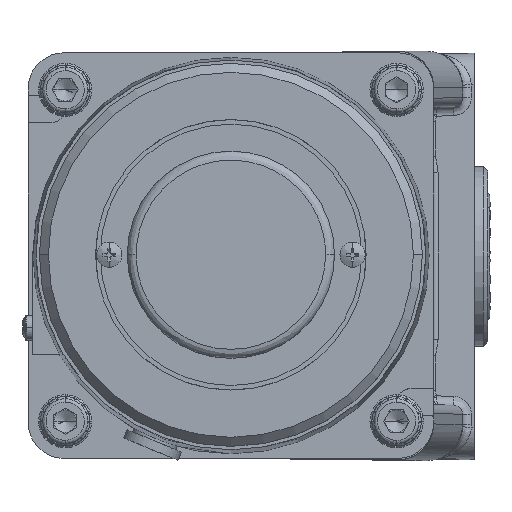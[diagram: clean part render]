
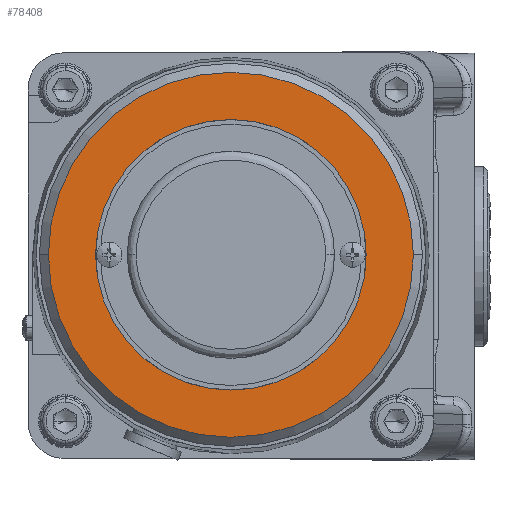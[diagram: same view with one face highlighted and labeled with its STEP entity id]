
A CAD part, top view. The second image highlights one B-rep face of the part: STEP entity #78408.
In plain terms, the highlighted planar face has unit normal (0, 0, 1) as drawn and (-1, 0, 0) by its records, which use the part's own axes.
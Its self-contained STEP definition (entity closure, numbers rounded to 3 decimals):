
#199 = ORIENTED_EDGE ( 'NONE', *, *, #34504, .F. ) ;
#936 = DIRECTION ( 'NONE',  ( 0., 0., 1. ) ) ;
#1021 = DIRECTION ( 'NONE',  ( 1., 0., 0. ) ) ;
#1222 = CARTESIAN_POINT ( 'NONE',  ( -38.671, -0.635, 153.524 ) ) ;
#2070 = EDGE_LOOP ( 'NONE', ( #46723, #27290 ) ) ;
#6634 = PLANE ( 'NONE',  #23651 ) ;
#12821 = DIRECTION ( 'NONE',  ( 1., 0., 0. ) ) ;
#13061 = CARTESIAN_POINT ( 'NONE',  ( -38.671, 29.365, 153.524 ) ) ;
#13763 = CARTESIAN_POINT ( 'NONE',  ( -38.671, -0.635, 153.524 ) ) ;
#18472 = DIRECTION ( 'NONE',  ( 0., 0., -1. ) ) ;
#18485 = DIRECTION ( 'NONE',  ( 1., 0., 0. ) ) ;
#18589 = CARTESIAN_POINT ( 'NONE',  ( -38.671, -0.635, 153.524 ) ) ;
#20187 = DIRECTION ( 'NONE',  ( 0., 0., 1. ) ) ;
#23651 = AXIS2_PLACEMENT_3D ( 'NONE', #13061, #45028, #63733 ) ;
#24375 = AXIS2_PLACEMENT_3D ( 'NONE', #13763, #58262, #20187 ) ;
#26723 = EDGE_CURVE ( 'NONE', #54906, #56415, #75490, .T. ) ;
#27187 = CIRCLE ( 'NONE', #24375, 30. ) ;
#27290 = ORIENTED_EDGE ( 'NONE', *, *, #52538, .T. ) ;
#28688 = CARTESIAN_POINT ( 'NONE',  ( -38.671, -0.635, 123.524 ) ) ;
#30057 = EDGE_LOOP ( 'NONE', ( #199, #59660 ) ) ;
#34504 = EDGE_CURVE ( 'NONE', #63122, #38156, #47770, .T. ) ;
#38156 = VERTEX_POINT ( 'NONE', #47720 ) ;
#44225 = EDGE_CURVE ( 'NONE', #38156, #63122, #80757, .T. ) ;
#45028 = DIRECTION ( 'NONE',  ( -1., 0., 0. ) ) ;
#46723 = ORIENTED_EDGE ( 'NONE', *, *, #26723, .T. ) ;
#47720 = CARTESIAN_POINT ( 'NONE',  ( -38.671, -0.635, 194.024 ) ) ;
#47770 = CIRCLE ( 'NONE', #57800, 40.5 ) ;
#51117 = CARTESIAN_POINT ( 'NONE',  ( -38.671, -0.635, 153.524 ) ) ;
#52538 = EDGE_CURVE ( 'NONE', #56415, #54906, #27187, .T. ) ;
#54849 = AXIS2_PLACEMENT_3D ( 'NONE', #51117, #12821, #57365 ) ;
#54906 = VERTEX_POINT ( 'NONE', #67256 ) ;
#56138 = AXIS2_PLACEMENT_3D ( 'NONE', #1222, #1021, #936 ) ;
#56415 = VERTEX_POINT ( 'NONE', #28688 ) ;
#57365 = DIRECTION ( 'NONE',  ( 0., 0., -1. ) ) ;
#57800 = AXIS2_PLACEMENT_3D ( 'NONE', #18589, #18485, #18472 ) ;
#58262 = DIRECTION ( 'NONE',  ( 1., 0., 0. ) ) ;
#59660 = ORIENTED_EDGE ( 'NONE', *, *, #44225, .F. ) ;
#61742 = FACE_OUTER_BOUND ( 'NONE', #30057, .T. ) ;
#63122 = VERTEX_POINT ( 'NONE', #67017 ) ;
#63733 = DIRECTION ( 'NONE',  ( 0., 0., 1. ) ) ;
#67017 = CARTESIAN_POINT ( 'NONE',  ( -38.671, -0.635, 113.024 ) ) ;
#67256 = CARTESIAN_POINT ( 'NONE',  ( -38.671, -0.635, 183.524 ) ) ;
#75490 = CIRCLE ( 'NONE', #56138, 30. ) ;
#78408 = ADVANCED_FACE ( 'NONE', ( #79583, #61742 ), #6634, .T. ) ;
#79583 = FACE_BOUND ( 'NONE', #2070, .T. ) ;
#80757 = CIRCLE ( 'NONE', #54849, 40.5 ) ;
